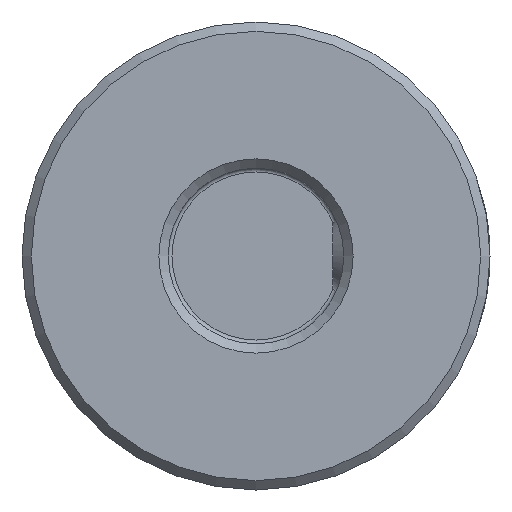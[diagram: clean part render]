
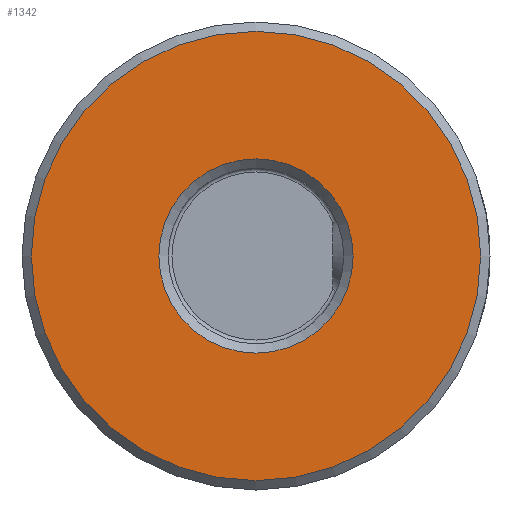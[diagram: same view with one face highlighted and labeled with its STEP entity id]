
A CAD part, front view. The second image highlights one B-rep face of the part: STEP entity #1342.
In plain terms, the highlighted planar face has unit normal (0, -1, 0).
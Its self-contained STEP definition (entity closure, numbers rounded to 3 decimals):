
#290=FACE_BOUND('',#453,.T.);
#302=PLANE('',#1503);
#363=FACE_OUTER_BOUND('',#452,.T.);
#452=EDGE_LOOP('',(#1121));
#453=EDGE_LOOP('',(#1122));
#534=CIRCLE('',#1502,5.271);
#535=CIRCLE('',#1504,12.192);
#636=VERTEX_POINT('',#3277);
#637=VERTEX_POINT('',#3281);
#804=EDGE_CURVE('',#636,#636,#534,.T.);
#805=EDGE_CURVE('',#637,#637,#535,.T.);
#1121=ORIENTED_EDGE('',*,*,#805,.F.);
#1122=ORIENTED_EDGE('',*,*,#804,.F.);
#1342=ADVANCED_FACE('',(#363,#290),#302,.F.);
#1502=AXIS2_PLACEMENT_3D('',#3279,#1760,#1761);
#1503=AXIS2_PLACEMENT_3D('',#3280,#1762,#1763);
#1504=AXIS2_PLACEMENT_3D('',#3282,#1764,#1765);
#1760=DIRECTION('center_axis',(0.,-1.,0.));
#1761=DIRECTION('ref_axis',(1.,0.,0.));
#1762=DIRECTION('center_axis',(0.,1.,0.));
#1763=DIRECTION('ref_axis',(0.,0.,1.));
#1764=DIRECTION('center_axis',(0.,1.,0.));
#1765=DIRECTION('ref_axis',(1.,0.,0.));
#3277=CARTESIAN_POINT('',(-5.271,0.,0.));
#3279=CARTESIAN_POINT('Origin',(0.,0.,0.));
#3280=CARTESIAN_POINT('Origin',(0.,0.,0.));
#3281=CARTESIAN_POINT('',(-12.192,0.,0.));
#3282=CARTESIAN_POINT('Origin',(0.,0.,0.));
